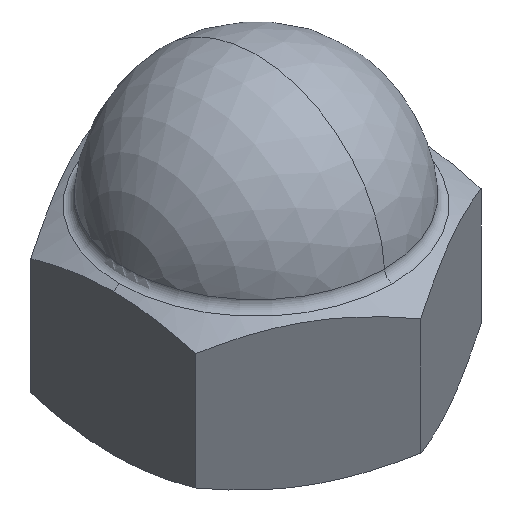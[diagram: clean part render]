
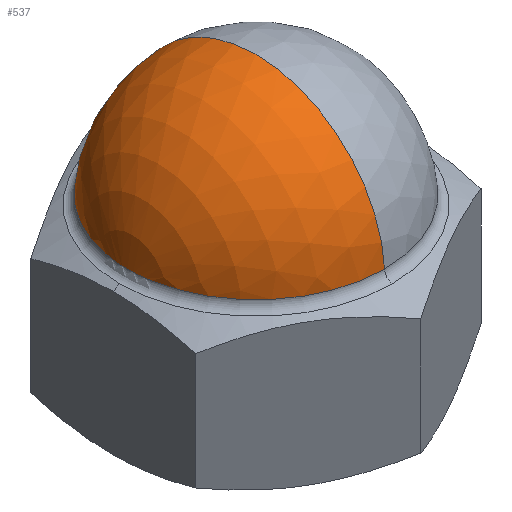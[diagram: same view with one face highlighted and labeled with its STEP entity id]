
A CAD part, isometric view. The second image highlights one B-rep face of the part: STEP entity #537.
In plain terms, the highlighted spherical face has radius 20.75 mm.
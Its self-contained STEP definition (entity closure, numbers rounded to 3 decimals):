
#20 = CARTESIAN_POINT ( 'NONE',  ( 0., 0., 24.25 ) ) ;
#62 = AXIS2_PLACEMENT_3D ( 'NONE', #480, #831, #95 ) ;
#82 = CARTESIAN_POINT ( 'NONE',  ( 0., 0., 45. ) ) ;
#95 = DIRECTION ( 'NONE',  ( 0., 1., 0. ) ) ;
#96 = CARTESIAN_POINT ( 'NONE',  ( 0., 0., 24.25 ) ) ;
#97 = VERTEX_POINT ( 'NONE', #525 ) ;
#148 = DIRECTION ( 'NONE',  ( 0., 0., 1. ) ) ;
#166 = DIRECTION ( 'NONE',  ( 1., 0., 0. ) ) ;
#169 = AXIS2_PLACEMENT_3D ( 'NONE', #551, #765, #148 ) ;
#225 = EDGE_CURVE ( 'NONE', #427, #97, #536, .T. ) ;
#265 = CIRCLE ( 'NONE', #169, 20.75 ) ;
#330 = CIRCLE ( 'NONE', #62, 20.718 ) ;
#343 = SPHERICAL_SURFACE ( 'NONE', #446, 20.75 ) ;
#372 = DIRECTION ( 'NONE',  ( 1., 0., 0. ) ) ;
#389 = VERTEX_POINT ( 'NONE', #752 ) ;
#397 = EDGE_LOOP ( 'NONE', ( #889, #738, #583 ) ) ;
#427 = VERTEX_POINT ( 'NONE', #82 ) ;
#446 = AXIS2_PLACEMENT_3D ( 'NONE', #20, #372, #640 ) ;
#480 = CARTESIAN_POINT ( 'NONE',  ( 0., 0., 25.401 ) ) ;
#525 = CARTESIAN_POINT ( 'NONE',  ( 0., -20.718, 25.401 ) ) ;
#536 = CIRCLE ( 'NONE', #743, 20.75 ) ;
#537 = ADVANCED_FACE ( 'NONE', ( #748 ), #343, .T. ) ;
#551 = CARTESIAN_POINT ( 'NONE',  ( 0., 0., 24.25 ) ) ;
#581 = DIRECTION ( 'NONE',  ( 0., 1., 0. ) ) ;
#582 = EDGE_CURVE ( 'NONE', #389, #97, #330, .T. ) ;
#583 = ORIENTED_EDGE ( 'NONE', *, *, #582, .T. ) ;
#598 = EDGE_CURVE ( 'NONE', #427, #389, #265, .T. ) ;
#640 = DIRECTION ( 'NONE',  ( 0., 1., 0. ) ) ;
#738 = ORIENTED_EDGE ( 'NONE', *, *, #598, .T. ) ;
#743 = AXIS2_PLACEMENT_3D ( 'NONE', #96, #166, #581 ) ;
#748 = FACE_OUTER_BOUND ( 'NONE', #397, .T. ) ;
#752 = CARTESIAN_POINT ( 'NONE',  ( 0., 20.718, 25.401 ) ) ;
#765 = DIRECTION ( 'NONE',  ( -1., 0., 0. ) ) ;
#831 = DIRECTION ( 'NONE',  ( 0., 0., 1. ) ) ;
#889 = ORIENTED_EDGE ( 'NONE', *, *, #225, .F. ) ;
